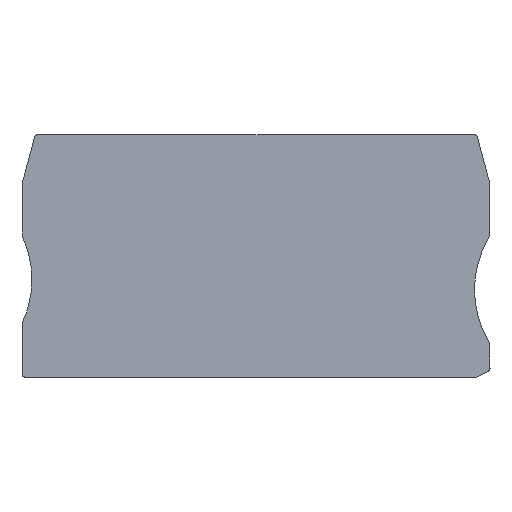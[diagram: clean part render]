
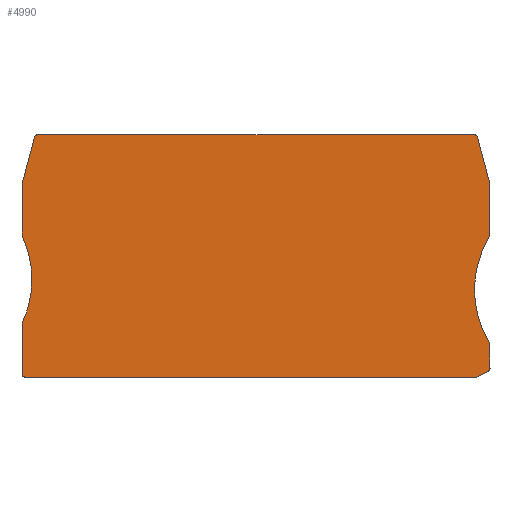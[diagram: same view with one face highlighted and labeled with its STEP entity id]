
A CAD part, top view. The second image highlights one B-rep face of the part: STEP entity #4990.
In plain terms, the highlighted planar face has unit normal (0, 0, 1).
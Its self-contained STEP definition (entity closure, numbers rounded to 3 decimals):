
#60=CARTESIAN_POINT('',(31.631,-2.2,55.87));
#70=DIRECTION('',(1.,0.,0.));
#80=VECTOR('',#70,1.);
#90=LINE('',#60,#80);
#100=CARTESIAN_POINT('',(-30.424,-2.2,55.87));
#110=VERTEX_POINT('',#100);
#120=CARTESIAN_POINT('',(34.388,-2.2,55.87));
#130=VERTEX_POINT('',#120);
#140=EDGE_CURVE('',#110,#130,#90,.T.);
#680=CARTESIAN_POINT('',(-31.286,-23.7,55.87));
#690=VERTEX_POINT('',#680);
#720=CARTESIAN_POINT('',(-46.286,-23.7,55.87));
#730=DIRECTION('',(0.,0.,1.));
#740=DIRECTION('',(1.,0.,0.));
#750=AXIS2_PLACEMENT_3D('',#720,#730,#740);
#760=CIRCLE('',#750,15.);
#770=CARTESIAN_POINT('',(-32.72,-30.1,55.87));
#780=VERTEX_POINT('',#770);
#790=EDGE_CURVE('',#780,#690,#760,.T.);
#1020=CARTESIAN_POINT('',(-32.268,-30.313,55.87));
#1030=DIRECTION('',(0.,0.,1.));
#1040=DIRECTION('',(1.,0.,0.));
#1050=AXIS2_PLACEMENT_3D('',#1020,#1030,#1040);
#1060=CIRCLE('',#1050,0.5);
#1070=CARTESIAN_POINT('',(-32.768,-30.313,55.87));
#1080=VERTEX_POINT('',#1070);
#1090=EDGE_CURVE('',#780,#1080,#1060,.T.);
#3220=CARTESIAN_POINT('',(31.631,-22.363,55.87));
#3230=DIRECTION('',(0.,0.,1.));
#3240=DIRECTION('',(1.,0.,0.));
#3250=AXIS2_PLACEMENT_3D('',#3220,#3230,#3240);
#3260=PLANE('',#3250);
#3270=CARTESIAN_POINT('',(36.232,-17.057,55.87));
#3280=DIRECTION('',(0.,0.,1.));
#3290=DIRECTION('',(1.,0.,0.));
#3300=AXIS2_PLACEMENT_3D('',#3270,#3280,#3290);
#3310=CIRCLE('',#3300,0.5);
#3320=CARTESIAN_POINT('',(36.658,-17.32,55.87));
#3330=VERTEX_POINT('',#3320);
#3340=CARTESIAN_POINT('',(36.732,-17.057,55.87));
#3350=VERTEX_POINT('',#3340);
#3360=EDGE_CURVE('',#3330,#3350,#3310,.T.);
#3370=ORIENTED_EDGE('',*,*,#3360,.T.);
#3380=CARTESIAN_POINT('',(49.421,-25.2,55.87));
#3390=DIRECTION('',(0.,0.,1.));
#3400=DIRECTION('',(1.,0.,0.));
#3410=AXIS2_PLACEMENT_3D('',#3380,#3390,#3400);
#3420=CIRCLE('',#3410,15.);
#3430=CARTESIAN_POINT('',(34.421,-25.2,55.87));
#3440=VERTEX_POINT('',#3430);
#3450=EDGE_CURVE('',#3330,#3440,#3420,.T.);
#3460=ORIENTED_EDGE('',*,*,#3450,.F.);
#3470=CARTESIAN_POINT('',(36.658,-33.08,55.87));
#3480=VERTEX_POINT('',#3470);
#3490=EDGE_CURVE('',#3440,#3480,#3420,.T.);
#3500=ORIENTED_EDGE('',*,*,#3490,.F.);
#3510=CARTESIAN_POINT('',(36.232,-33.343,55.87));
#3520=DIRECTION('',(0.,0.,1.));
#3530=DIRECTION('',(1.,0.,0.));
#3540=AXIS2_PLACEMENT_3D('',#3510,#3520,#3530);
#3550=CIRCLE('',#3540,0.5);
#3560=CARTESIAN_POINT('',(36.732,-33.343,55.87));
#3570=VERTEX_POINT('',#3560);
#3580=EDGE_CURVE('',#3570,#3480,#3550,.T.);
#3590=ORIENTED_EDGE('',*,*,#3580,.T.);
#3600=CARTESIAN_POINT('',(36.732,-22.363,55.87));
#3610=DIRECTION('',(0.,-1.,0.));
#3620=VECTOR('',#3610,1.);
#3630=LINE('',#3600,#3620);
#3640=CARTESIAN_POINT('',(36.732,-36.889,55.87));
#3650=VERTEX_POINT('',#3640);
#3660=EDGE_CURVE('',#3570,#3650,#3630,.T.);
#3670=ORIENTED_EDGE('',*,*,#3660,.F.);
#3680=CARTESIAN_POINT('',(36.232,-36.889,55.87));
#3690=DIRECTION('',(0.,0.,1.));
#3700=DIRECTION('',(1.,0.,0.));
#3710=AXIS2_PLACEMENT_3D('',#3680,#3690,#3700);
#3720=CIRCLE('',#3710,0.5);
#3730=CARTESIAN_POINT('',(36.453,-37.338,55.87));
#3740=VERTEX_POINT('',#3730);
#3750=EDGE_CURVE('',#3740,#3650,#3720,.T.);
#3760=ORIENTED_EDGE('',*,*,#3750,.T.);
#3770=CARTESIAN_POINT('',(31.631,-39.716,55.87));
#3780=DIRECTION('',(0.897,0.442,0.));
#3790=VECTOR('',#3780,1.);
#3800=LINE('',#3770,#3790);
#3810=CARTESIAN_POINT('',(34.809,-38.148,55.87));
#3820=VERTEX_POINT('',#3810);
#3830=EDGE_CURVE('',#3820,#3740,#3800,.T.);
#3840=ORIENTED_EDGE('',*,*,#3830,.T.);
#3850=CARTESIAN_POINT('',(34.588,-37.7,55.87));
#3860=DIRECTION('',(0.,0.,1.));
#3870=DIRECTION('',(1.,0.,0.));
#3880=AXIS2_PLACEMENT_3D('',#3850,#3860,#3870);
#3890=CIRCLE('',#3880,0.5);
#3900=CARTESIAN_POINT('',(34.588,-38.2,55.87));
#3910=VERTEX_POINT('',#3900);
#3920=EDGE_CURVE('',#3910,#3820,#3890,.T.);
#3930=ORIENTED_EDGE('',*,*,#3920,.T.);
#3940=CARTESIAN_POINT('',(31.631,-38.2,55.87));
#3950=DIRECTION('',(-1.,0.,0.));
#3960=VECTOR('',#3950,1.);
#3970=LINE('',#3940,#3960);
#3980=CARTESIAN_POINT('',(-32.268,-38.2,55.87));
#3990=VERTEX_POINT('',#3980);
#4000=EDGE_CURVE('',#3910,#3990,#3970,.T.);
#4010=ORIENTED_EDGE('',*,*,#4000,.F.);
#4020=CARTESIAN_POINT('',(-32.268,-37.7,55.87));
#4030=DIRECTION('',(0.,0.,1.));
#4040=DIRECTION('',(1.,0.,0.));
#4050=AXIS2_PLACEMENT_3D('',#4020,#4030,#4040);
#4060=CIRCLE('',#4050,0.5);
#4070=CARTESIAN_POINT('',(-32.768,-37.7,55.87));
#4080=VERTEX_POINT('',#4070);
#4090=EDGE_CURVE('',#4080,#3990,#4060,.T.);
#4100=ORIENTED_EDGE('',*,*,#4090,.T.);
#4110=CARTESIAN_POINT('',(-32.768,-22.363,55.87));
#4120=DIRECTION('',(0.,1.,0.));
#4130=VECTOR('',#4120,1.);
#4140=LINE('',#4110,#4130);
#4150=EDGE_CURVE('',#4080,#1080,#4140,.T.);
#4160=ORIENTED_EDGE('',*,*,#4150,.F.);
#4170=ORIENTED_EDGE('',*,*,#1090,.T.);
#4180=ORIENTED_EDGE('',*,*,#790,.F.);
#4190=CARTESIAN_POINT('',(-32.72,-17.3,55.87));
#4200=VERTEX_POINT('',#4190);
#4210=EDGE_CURVE('',#690,#4200,#760,.T.);
#4220=ORIENTED_EDGE('',*,*,#4210,.F.);
#4230=CARTESIAN_POINT('',(-32.268,-17.087,55.87));
#4240=DIRECTION('',(0.,0.,1.));
#4250=DIRECTION('',(1.,0.,0.));
#4260=AXIS2_PLACEMENT_3D('',#4230,#4240,#4250);
#4270=CIRCLE('',#4260,0.5);
#4280=CARTESIAN_POINT('',(-32.768,-17.087,55.87));
#4290=VERTEX_POINT('',#4280);
#4300=EDGE_CURVE('',#4290,#4200,#4270,.T.);
#4310=ORIENTED_EDGE('',*,*,#4300,.T.);
#4320=CARTESIAN_POINT('',(-32.768,-22.363,55.87));
#4330=DIRECTION('',(0.,1.,0.));
#4340=VECTOR('',#4330,1.);
#4350=LINE('',#4320,#4340);
#4360=CARTESIAN_POINT('',(-32.768,-9.581,55.87));
#4370=VERTEX_POINT('',#4360);
#4380=EDGE_CURVE('',#4290,#4370,#4350,.T.);
#4390=ORIENTED_EDGE('',*,*,#4380,.F.);
#4400=CARTESIAN_POINT('',(-32.268,-9.581,55.87));
#4410=DIRECTION('',(0.,0.,1.));
#4420=DIRECTION('',(1.,0.,0.));
#4430=AXIS2_PLACEMENT_3D('',#4400,#4410,#4420);
#4440=CIRCLE('',#4430,0.5);
#4450=CARTESIAN_POINT('',(-32.751,-9.452,55.87));
#4460=VERTEX_POINT('',#4450);
#4470=EDGE_CURVE('',#4460,#4370,#4440,.T.);
#4480=ORIENTED_EDGE('',*,*,#4470,.T.);
#4490=CARTESIAN_POINT('',(-36.21,-22.363,55.87));
#4500=DIRECTION('',(-0.259,-0.966,0.));
#4510=VECTOR('',#4500,1.);
#4520=LINE('',#4490,#4510);
#4530=CARTESIAN_POINT('',(-30.907,-2.571,55.87));
#4540=VERTEX_POINT('',#4530);
#4550=EDGE_CURVE('',#4540,#4460,#4520,.T.);
#4560=ORIENTED_EDGE('',*,*,#4550,.T.);
#4570=CARTESIAN_POINT('',(-30.424,-2.7,55.87));
#4580=DIRECTION('',(0.,0.,1.));
#4590=DIRECTION('',(1.,0.,0.));
#4600=AXIS2_PLACEMENT_3D('',#4570,#4580,#4590);
#4610=CIRCLE('',#4600,0.5);
#4620=EDGE_CURVE('',#110,#4540,#4610,.T.);
#4630=ORIENTED_EDGE('',*,*,#4620,.T.);
#4640=ORIENTED_EDGE('',*,*,#140,.F.);
#4650=CARTESIAN_POINT('',(34.388,-2.7,55.87));
#4660=DIRECTION('',(0.,0.,1.));
#4670=DIRECTION('',(1.,0.,0.));
#4680=AXIS2_PLACEMENT_3D('',#4650,#4660,#4670);
#4690=CIRCLE('',#4680,0.5);
#4700=CARTESIAN_POINT('',(34.871,-2.571,55.87));
#4710=VERTEX_POINT('',#4700);
#4720=EDGE_CURVE('',#4710,#130,#4690,.T.);
#4730=ORIENTED_EDGE('',*,*,#4720,.T.);
#4740=CARTESIAN_POINT('',(40.175,-22.363,55.87));
#4750=DIRECTION('',(-0.259,0.966,0.));
#4760=VECTOR('',#4750,1.);
#4770=LINE('',#4740,#4760);
#4780=CARTESIAN_POINT('',(36.715,-9.452,55.87));
#4790=VERTEX_POINT('',#4780);
#4800=EDGE_CURVE('',#4790,#4710,#4770,.T.);
#4810=ORIENTED_EDGE('',*,*,#4800,.T.);
#4820=CARTESIAN_POINT('',(36.232,-9.581,55.87));
#4830=DIRECTION('',(0.,0.,-1.));
#4840=DIRECTION('',(-1.,0.,0.));
#4850=AXIS2_PLACEMENT_3D('',#4820,#4830,#4840);
#4860=CIRCLE('',#4850,0.5);
#4870=CARTESIAN_POINT('',(36.732,-9.581,55.87));
#4880=VERTEX_POINT('',#4870);
#4890=EDGE_CURVE('',#4790,#4880,#4860,.T.);
#4900=ORIENTED_EDGE('',*,*,#4890,.F.);
#4910=CARTESIAN_POINT('',(36.732,-22.363,55.87));
#4920=DIRECTION('',(0.,-1.,0.));
#4930=VECTOR('',#4920,1.);
#4940=LINE('',#4910,#4930);
#4950=EDGE_CURVE('',#4880,#3350,#4940,.T.);
#4960=ORIENTED_EDGE('',*,*,#4950,.F.);
#4970=EDGE_LOOP('',(#4960,#4900,#4810,#4730,#4640,#4630,#4560,#4480,
#4390,#4310,#4220,#4180,#4170,#4160,#4100,#4010,#3930,#3840,#3760,#3670,
#3590,#3500,#3460,#3370));
#4980=FACE_OUTER_BOUND('',#4970,.T.);
#4990=ADVANCED_FACE('',(#4980),#3260,.T.);
